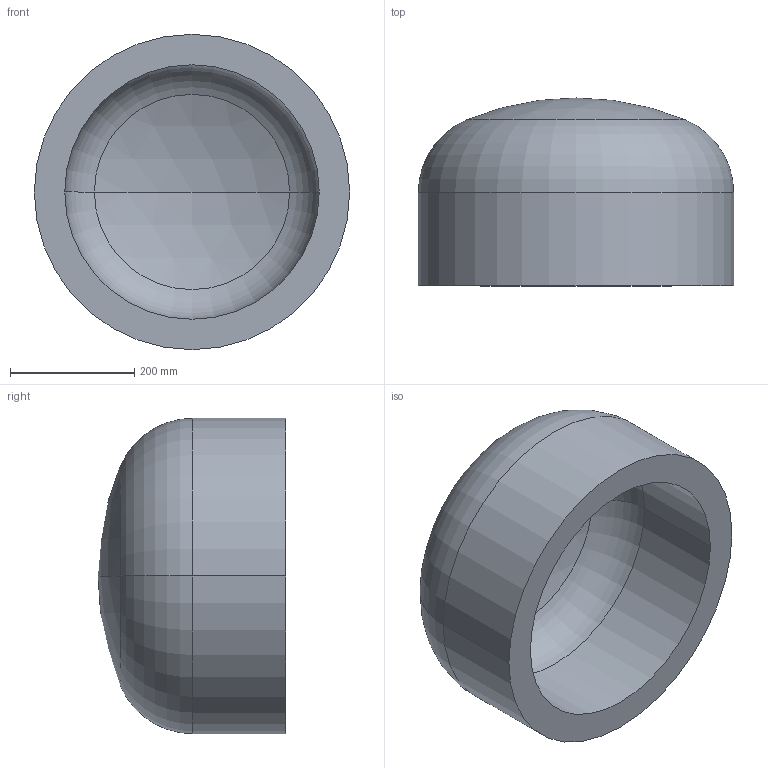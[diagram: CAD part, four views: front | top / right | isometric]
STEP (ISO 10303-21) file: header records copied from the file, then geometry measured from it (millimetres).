
FILE_DESCRIPTION (( 'STEP AP203' ), '1' );
FILE_NAME ('DIN 28013 Korbbogenform_-_Boden DIN 28013 - 508 x 150 - I - s=49.step', '2016-07-01T07:55:35', ( '' ), ( '' ), 'SwSTEP 2.0', 'SolidWorks 2013', '' );
FILE_SCHEMA (( 'CONFIG_CONTROL_DESIGN' ));
Length unit declared in the file: millimetre
Products named in the file (1): DIN 28013 Korbbogenform_-_Boden DIN 28013 - 508 x 150 - I - s=49
Bounding box: 508 x 302.58 x 508 mm (x, y, z)
Volume: 22795215 mm3; surface area: 1006103 mm2
Topology: 1 solids, 1 shells, 13 faces, 24 edges, 14 vertices
Faces by surface type: torus 4, cylinder 4, sphere 4, plane 1
Entity records: 407 total; most frequent: DIRECTION 72, CARTESIAN_POINT 52, ORIENTED_EDGE 48, AXIS2_PLACEMENT_3D 34, EDGE_CURVE 24, CIRCLE 20, EDGE_LOOP 14, VERTEX_POINT 14
